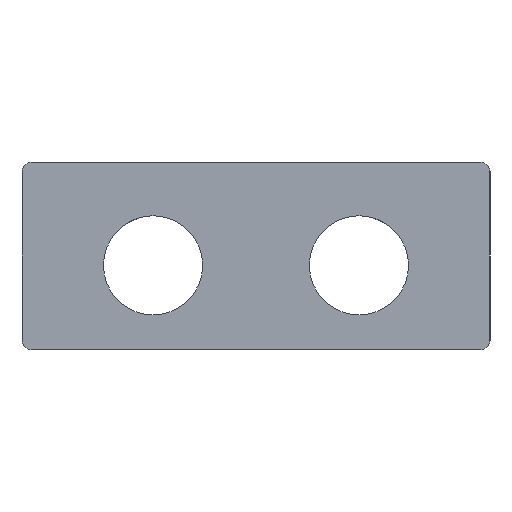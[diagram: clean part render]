
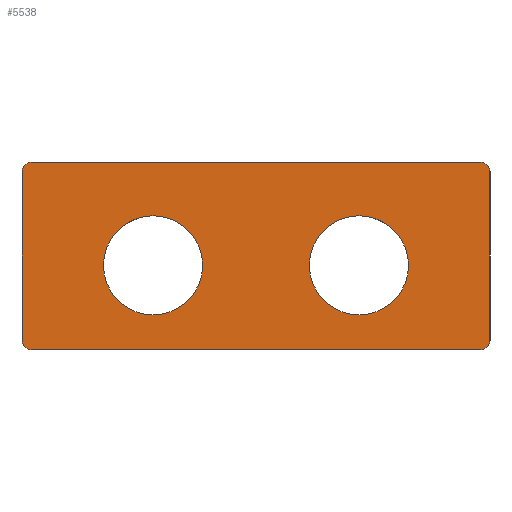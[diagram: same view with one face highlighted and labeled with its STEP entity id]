
A CAD part, left-side view. The second image highlights one B-rep face of the part: STEP entity #5538.
In plain terms, the highlighted planar face has unit normal (-1, 0, 0).
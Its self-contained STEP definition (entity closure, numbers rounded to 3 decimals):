
#826=CARTESIAN_POINT('',(-40.,29.707,9.707));
#827=VERTEX_POINT('',#826);
#836=CARTESIAN_POINT('',(-40.,29.,10.0));
#837=VERTEX_POINT('',#836);
#838=CARTESIAN_POINT('',(-40.,29.,9.0));
#839=DIRECTION('',(1.,0.0,0.0));
#840=DIRECTION('',(0.0,0.707,0.707));
#841=AXIS2_PLACEMENT_3D('',#838,#839,#840);
#842=CIRCLE('',#841,1.);
#843=EDGE_CURVE('',#827,#837,#842,.T.);
#870=CARTESIAN_POINT('',(-40.,29.707,-9.707));
#871=VERTEX_POINT('',#870);
#887=CARTESIAN_POINT('',(-40.,29.,-10.0));
#888=VERTEX_POINT('',#887);
#895=CARTESIAN_POINT('',(-40.,29.,-9.0));
#896=DIRECTION('',(1.,0.0,0.0));
#897=DIRECTION('',(0.0,0.707,-0.707));
#898=AXIS2_PLACEMENT_3D('',#895,#896,#897);
#899=CIRCLE('',#898,1.);
#900=EDGE_CURVE('',#888,#871,#899,.T.);
#910=CARTESIAN_POINT('',(-40.,-19.707,-9.707));
#911=VERTEX_POINT('',#910);
#920=CARTESIAN_POINT('',(-40.,-19.,-10.0));
#921=VERTEX_POINT('',#920);
#922=CARTESIAN_POINT('',(-40.,-19.,-9.0));
#923=DIRECTION('',(1.,0.0,0.0));
#924=DIRECTION('',(0.0,-0.707,-0.707));
#925=AXIS2_PLACEMENT_3D('',#922,#923,#924);
#926=CIRCLE('',#925,1.);
#927=EDGE_CURVE('',#911,#921,#926,.T.);
#954=CARTESIAN_POINT('',(-40.,-19.707,9.707));
#955=VERTEX_POINT('',#954);
#971=CARTESIAN_POINT('',(-40.,-19.,10.0));
#972=VERTEX_POINT('',#971);
#979=CARTESIAN_POINT('',(-40.,-19.,9.0));
#980=DIRECTION('',(1.,0.0,0.0));
#981=DIRECTION('',(0.0,-0.707,0.707));
#982=AXIS2_PLACEMENT_3D('',#979,#980,#981);
#983=CIRCLE('',#982,1.);
#984=EDGE_CURVE('',#972,#955,#983,.T.);
#996=CARTESIAN_POINT('',(-40.,-11.294,-1.));
#997=VERTEX_POINT('',#996);
#1013=CARTESIAN_POINT('',(-40.,-0.706,-1.));
#1014=VERTEX_POINT('',#1013);
#1021=CARTESIAN_POINT('',(-40.,-6.,-1.));
#1022=DIRECTION('',(1.0,0.0,0.0));
#1023=DIRECTION('',(0.0,-1.0,0.0));
#1024=AXIS2_PLACEMENT_3D('',#1021,#1022,#1023);
#1025=CIRCLE('',#1024,5.294);
#1026=EDGE_CURVE('',#997,#1014,#1025,.T.);
#1038=CARTESIAN_POINT('',(-40.,10.706,-1.));
#1039=VERTEX_POINT('',#1038);
#1055=CARTESIAN_POINT('',(-40.,21.294,-1.));
#1056=VERTEX_POINT('',#1055);
#1063=CARTESIAN_POINT('',(-40.,16.,-1.));
#1064=DIRECTION('',(1.0,0.0,0.0));
#1065=DIRECTION('',(0.0,-1.0,0.0));
#1066=AXIS2_PLACEMENT_3D('',#1063,#1064,#1065);
#1067=CIRCLE('',#1066,5.294);
#1068=EDGE_CURVE('',#1039,#1056,#1067,.T.);
#4967=CARTESIAN_POINT('',(-40.,16.,-1.));
#4968=DIRECTION('',(1.0,0.0,0.0));
#4969=DIRECTION('',(0.0,-1.0,0.0));
#4970=AXIS2_PLACEMENT_3D('',#4967,#4968,#4969);
#4971=CIRCLE('',#4970,5.294);
#4972=EDGE_CURVE('',#1056,#1039,#4971,.T.);
#5137=CARTESIAN_POINT('',(-40.,-6.,-1.));
#5138=DIRECTION('',(1.0,0.0,0.0));
#5139=DIRECTION('',(0.0,-1.0,0.0));
#5140=AXIS2_PLACEMENT_3D('',#5137,#5138,#5139);
#5141=CIRCLE('',#5140,5.294);
#5142=EDGE_CURVE('',#1014,#997,#5141,.T.);
#5305=CARTESIAN_POINT('',(-40.,-20.,9.0));
#5306=VERTEX_POINT('',#5305);
#5307=CARTESIAN_POINT('',(-40.,-19.,9.0));
#5308=DIRECTION('',(1.,0.0,0.0));
#5309=DIRECTION('',(0.0,-0.707,0.707));
#5310=AXIS2_PLACEMENT_3D('',#5307,#5308,#5309);
#5311=CIRCLE('',#5310,1.);
#5312=EDGE_CURVE('',#955,#5306,#5311,.T.);
#5410=CARTESIAN_POINT('',(-40.,-20.,-9.0));
#5411=VERTEX_POINT('',#5410);
#5412=CARTESIAN_POINT('',(-40.,-20.,-9.0));
#5413=DIRECTION('',(0.0,0.0,1.0));
#5414=VECTOR('',#5413,18.0);
#5415=LINE('',#5412,#5414);
#5416=EDGE_CURVE('',#5411,#5306,#5415,.T.);
#5436=CARTESIAN_POINT('',(-40.,-19.,-9.0));
#5437=DIRECTION('',(1.,0.0,0.0));
#5438=DIRECTION('',(0.0,-0.707,-0.707));
#5439=AXIS2_PLACEMENT_3D('',#5436,#5437,#5438);
#5440=CIRCLE('',#5439,1.);
#5441=EDGE_CURVE('',#5411,#911,#5440,.T.);
#5452=CARTESIAN_POINT('',(-40.,30.,-9.0));
#5453=VERTEX_POINT('',#5452);
#5454=CARTESIAN_POINT('',(-40.,29.,-9.0));
#5455=DIRECTION('',(1.,0.0,0.0));
#5456=DIRECTION('',(0.0,0.707,-0.707));
#5457=AXIS2_PLACEMENT_3D('',#5454,#5455,#5456);
#5458=CIRCLE('',#5457,1.);
#5459=EDGE_CURVE('',#871,#5453,#5458,.T.);
#5477=CARTESIAN_POINT('',(-40.,30.,9.0));
#5478=VERTEX_POINT('',#5477);
#5479=CARTESIAN_POINT('',(-40.,30.,-9.0));
#5480=DIRECTION('',(0.0,0.0,1.0));
#5481=VECTOR('',#5480,18.0);
#5482=LINE('',#5479,#5481);
#5483=EDGE_CURVE('',#5453,#5478,#5482,.T.);
#5495=CARTESIAN_POINT('',(-40.,-30.0,-10.0));
#5496=DIRECTION('',(-1.0,0.0,0.0));
#5497=DIRECTION('',(0.0,0.0,1.0));
#5498=AXIS2_PLACEMENT_3D('',#5495,#5496,#5497);
#5499=PLANE('',#5498);
#5500=ORIENTED_EDGE('',*,*,#984,.F.);
#5501=CARTESIAN_POINT('',(-40.,-19.,10.0));
#5502=DIRECTION('',(0.0,1.0,0.0));
#5503=VECTOR('',#5502,48.);
#5504=LINE('',#5501,#5503);
#5505=EDGE_CURVE('',#972,#837,#5504,.T.);
#5506=ORIENTED_EDGE('',*,*,#5505,.T.);
#5507=ORIENTED_EDGE('',*,*,#843,.F.);
#5508=CARTESIAN_POINT('',(-40.,29.,9.0));
#5509=DIRECTION('',(1.,0.0,0.0));
#5510=DIRECTION('',(0.0,0.707,0.707));
#5511=AXIS2_PLACEMENT_3D('',#5508,#5509,#5510);
#5512=CIRCLE('',#5511,1.);
#5513=EDGE_CURVE('',#5478,#827,#5512,.T.);
#5514=ORIENTED_EDGE('',*,*,#5513,.F.);
#5515=ORIENTED_EDGE('',*,*,#5483,.F.);
#5516=ORIENTED_EDGE('',*,*,#5459,.F.);
#5517=ORIENTED_EDGE('',*,*,#900,.F.);
#5518=CARTESIAN_POINT('',(-40.,29.,-10.0));
#5519=DIRECTION('',(0.0,-1.0,0.0));
#5520=VECTOR('',#5519,48.);
#5521=LINE('',#5518,#5520);
#5522=EDGE_CURVE('',#888,#921,#5521,.T.);
#5523=ORIENTED_EDGE('',*,*,#5522,.T.);
#5524=ORIENTED_EDGE('',*,*,#927,.F.);
#5525=ORIENTED_EDGE('',*,*,#5441,.F.);
#5526=ORIENTED_EDGE('',*,*,#5416,.T.);
#5527=ORIENTED_EDGE('',*,*,#5312,.F.);
#5528=EDGE_LOOP('',(#5500,#5506,#5507,#5514,#5515,#5516,#5517,#5523,#5524,#5525,#5526,#5527));
#5529=FACE_OUTER_BOUND('',#5528,.T.);
#5530=ORIENTED_EDGE('',*,*,#1068,.T.);
#5531=ORIENTED_EDGE('',*,*,#4972,.T.);
#5532=EDGE_LOOP('',(#5530,#5531));
#5533=FACE_BOUND('',#5532,.T.);
#5534=ORIENTED_EDGE('',*,*,#1026,.T.);
#5535=ORIENTED_EDGE('',*,*,#5142,.T.);
#5536=EDGE_LOOP('',(#5534,#5535));
#5537=FACE_BOUND('',#5536,.T.);
#5538=ADVANCED_FACE('',(#5529,#5533,#5537),#5499,.T.);
